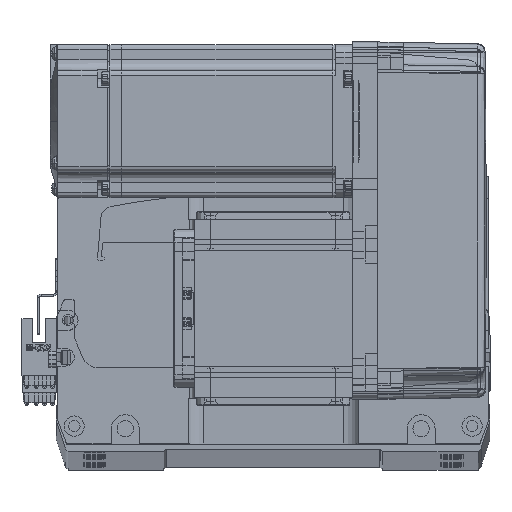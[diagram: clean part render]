
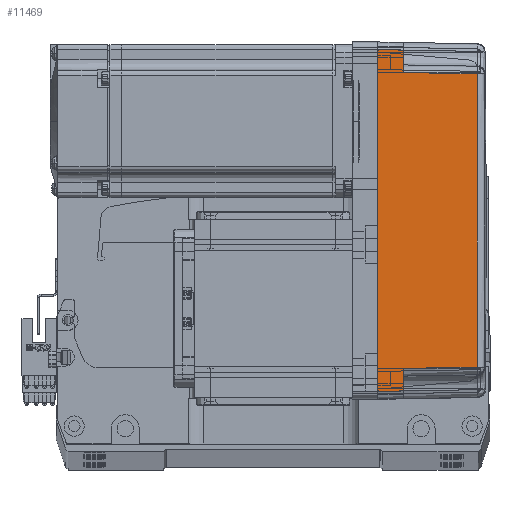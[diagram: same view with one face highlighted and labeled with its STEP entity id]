
A CAD part, top view. The second image highlights one B-rep face of the part: STEP entity #11469.
In plain terms, the highlighted planar face has unit normal (0.018, 0, 1) as drawn and (0, -1, 0.017) by its records, which use the part's own axes.
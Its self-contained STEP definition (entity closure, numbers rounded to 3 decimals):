
#277 = LINE ( 'NONE', #54565, #48615 ) ;
#846 = EDGE_CURVE ( 'NONE', #36774, #46907, #29774, .T. ) ;
#2025 = CARTESIAN_POINT ( 'NONE',  ( 58., -35.825, 10. ) ) ;
#2487 = VECTOR ( 'NONE', #52913, 1000. ) ;
#3122 = VECTOR ( 'NONE', #27179, 1000. ) ;
#4047 = CARTESIAN_POINT ( 'NONE',  ( -57.495, -35.32, 38.985 ) ) ;
#7764 = CARTESIAN_POINT ( 'NONE',  ( 70., -36., 0. ) ) ;
#9122 = CARTESIAN_POINT ( 'NONE',  ( -66.959, -35.958, 2.39 ) ) ;
#9290 = VERTEX_POINT ( 'NONE', #2025 ) ;
#11469 = ADVANCED_FACE ( 'NONE', ( #74088 ), #55480, .T. ) ;
#14730 = DIRECTION ( 'NONE',  ( 0.017, 0.017, 1. ) ) ;
#18862 = LINE ( 'NONE', #40688, #2487 ) ;
#20046 = EDGE_CURVE ( 'NONE', #35412, #28091, #45026, .T. ) ;
#20782 = CARTESIAN_POINT ( 'NONE',  ( -19.165, -35.316, 39.181 ) ) ;
#21054 = DIRECTION ( 'NONE',  ( -0.017, -0.017, -1. ) ) ;
#21189 = DIRECTION ( 'NONE',  ( 0., -1., 0.017 ) ) ;
#22019 = CARTESIAN_POINT ( 'NONE',  ( -58., -35.825, 10. ) ) ;
#23072 = DIRECTION ( 'NONE',  ( -0.017, 0.017, 1. ) ) ;
#24472 = B_SPLINE_CURVE_WITH_KNOTS ( 'NONE', 3,
 ( #56304, #49669, #20782, #62177 ),
 .UNSPECIFIED., .F., .F.,
 ( 4, 4 ),
 ( 0., 1. ),
 .UNSPECIFIED. ) ;
#24977 = VECTOR ( 'NONE', #23072, 1000. ) ;
#25015 = LINE ( 'NONE', #4047, #53334 ) ;
#27179 = DIRECTION ( 'NONE',  ( -1., 0., 0. ) ) ;
#28091 = VERTEX_POINT ( 'NONE', #71640 ) ;
#28151 = VERTEX_POINT ( 'NONE', #38169 ) ;
#28274 = DIRECTION ( 'NONE',  ( -1., 0., 0. ) ) ;
#29774 = LINE ( 'NONE', #9122, #74555 ) ;
#30838 = EDGE_CURVE ( 'NONE', #44312, #28151, #24472, .T. ) ;
#35196 = CARTESIAN_POINT ( 'NONE',  ( -67., -36., 0. ) ) ;
#35412 = VERTEX_POINT ( 'NONE', #54177 ) ;
#36774 = VERTEX_POINT ( 'NONE', #35196 ) ;
#38169 = CARTESIAN_POINT ( 'NONE',  ( -57.495, -35.32, 38.985 ) ) ;
#38610 = CARTESIAN_POINT ( 'NONE',  ( -66.826, -35.825, 10. ) ) ;
#38927 = ORIENTED_EDGE ( 'NONE', *, *, #62070, .T. ) ;
#40688 = CARTESIAN_POINT ( 'NONE',  ( 58., -35.825, 10. ) ) ;
#41566 = VERTEX_POINT ( 'NONE', #22019 ) ;
#44135 = ORIENTED_EDGE ( 'NONE', *, *, #846, .F. ) ;
#44312 = VERTEX_POINT ( 'NONE', #48522 ) ;
#45026 = LINE ( 'NONE', #58111, #24977 ) ;
#46430 = ORIENTED_EDGE ( 'NONE', *, *, #64716, .T. ) ;
#46907 = VERTEX_POINT ( 'NONE', #38610 ) ;
#48309 = ORIENTED_EDGE ( 'NONE', *, *, #20046, .T. ) ;
#48522 = CARTESIAN_POINT ( 'NONE',  ( 57.495, -35.32, 38.985 ) ) ;
#48615 = VECTOR ( 'NONE', #65549, 1000. ) ;
#49669 = CARTESIAN_POINT ( 'NONE',  ( 19.165, -35.316, 39.181 ) ) ;
#49979 = ORIENTED_EDGE ( 'NONE', *, *, #50481, .T. ) ;
#50216 = AXIS2_PLACEMENT_3D ( 'NONE', #7764, #21189, #61837 ) ;
#50481 = EDGE_CURVE ( 'NONE', #28091, #9290, #67912, .T. ) ;
#52031 = CARTESIAN_POINT ( 'NONE',  ( 0., -36., 0. ) ) ;
#52333 = ORIENTED_EDGE ( 'NONE', *, *, #65428, .T. ) ;
#52598 = VECTOR ( 'NONE', #28274, 1000. ) ;
#52885 = ORIENTED_EDGE ( 'NONE', *, *, #30838, .T. ) ;
#52913 = DIRECTION ( 'NONE',  ( -0.017, 0.017, 1. ) ) ;
#53334 = VECTOR ( 'NONE', #21054, 1000. ) ;
#54177 = CARTESIAN_POINT ( 'NONE',  ( 67., -36., 0. ) ) ;
#54565 = CARTESIAN_POINT ( 'NONE',  ( 70., -35.825, 10. ) ) ;
#55480 = PLANE ( 'NONE',  #50216 ) ;
#56304 = CARTESIAN_POINT ( 'NONE',  ( 57.495, -35.32, 38.985 ) ) ;
#58111 = CARTESIAN_POINT ( 'NONE',  ( 67., -36., 0. ) ) ;
#60793 = LINE ( 'NONE', #52031, #52598 ) ;
#61837 = DIRECTION ( 'NONE',  ( 0., -0.017, -1. ) ) ;
#62070 = EDGE_CURVE ( 'NONE', #9290, #44312, #18862, .T. ) ;
#62177 = CARTESIAN_POINT ( 'NONE',  ( -57.495, -35.32, 38.985 ) ) ;
#62454 = CARTESIAN_POINT ( 'NONE',  ( 70., -35.825, 10. ) ) ;
#63548 = EDGE_CURVE ( 'NONE', #35412, #36774, #60793, .T. ) ;
#64716 = EDGE_CURVE ( 'NONE', #28151, #41566, #25015, .T. ) ;
#65428 = EDGE_CURVE ( 'NONE', #41566, #46907, #277, .T. ) ;
#65549 = DIRECTION ( 'NONE',  ( -1., 0., 0. ) ) ;
#67912 = LINE ( 'NONE', #62454, #3122 ) ;
#68225 = ORIENTED_EDGE ( 'NONE', *, *, #63548, .F. ) ;
#71640 = CARTESIAN_POINT ( 'NONE',  ( 66.826, -35.825, 10. ) ) ;
#72239 = EDGE_LOOP ( 'NONE', ( #48309, #49979, #38927, #52885, #46430, #52333, #44135, #68225 ) ) ;
#74088 = FACE_OUTER_BOUND ( 'NONE', #72239, .T. ) ;
#74555 = VECTOR ( 'NONE', #14730, 1000. ) ;
